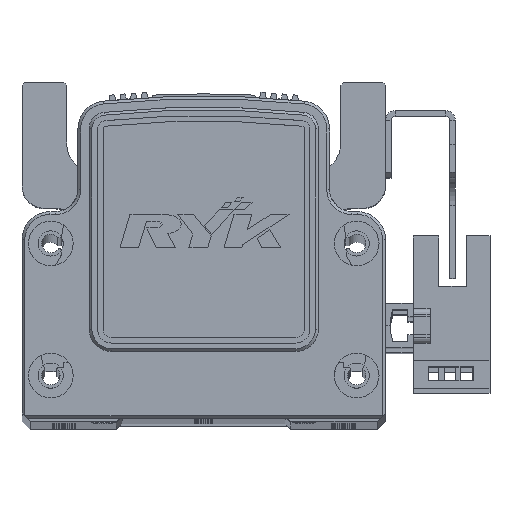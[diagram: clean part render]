
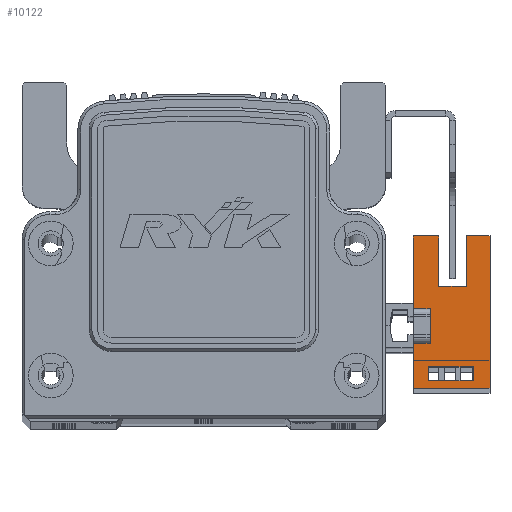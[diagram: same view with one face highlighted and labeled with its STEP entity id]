
A CAD part, top view. The second image highlights one B-rep face of the part: STEP entity #10122.
In plain terms, the highlighted planar face has unit normal (0, 0, 1) as drawn and (1, 0, 0) by its records, which use the part's own axes.
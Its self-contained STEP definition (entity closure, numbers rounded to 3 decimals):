
#503 = CARTESIAN_POINT ( 'NONE',  ( 3.2, 16.1, -10.7 ) ) ;
#562 = CARTESIAN_POINT ( 'NONE',  ( 3.2, -9.83, 0.3 ) ) ;
#708 = CARTESIAN_POINT ( 'NONE',  ( 3.2, -11.1, -10.7 ) ) ;
#712 = CARTESIAN_POINT ( 'NONE',  ( 3.2, 16.1, -6.5 ) ) ;
#802 = CARTESIAN_POINT ( 'NONE',  ( 3.2, -3.1, 0. ) ) ;
#1022 = VERTEX_POINT ( 'NONE', #41771 ) ;
#1035 = VERTEX_POINT ( 'NONE', #41767 ) ;
#1585 = VERTEX_POINT ( 'NONE', #562 ) ;
#1623 = VERTEX_POINT ( 'NONE', #503 ) ;
#1636 = VERTEX_POINT ( 'NONE', #712 ) ;
#1639 = VERTEX_POINT ( 'NONE', #708 ) ;
#2030 = DIRECTION ( 'NONE',  ( 1., 0., 0. ) ) ;
#2718 = VERTEX_POINT ( 'NONE', #802 ) ;
#10122 = ADVANCED_FACE ( 'NONE', ( #22330, #22302 ), #38349, .T. ) ;
#13396 = DIRECTION ( 'NONE',  ( 0., 1., 0. ) ) ;
#13554 = EDGE_LOOP ( 'NONE', ( #39534, #39437, #39600, #39439 ) ) ;
#13556 = EDGE_LOOP ( 'NONE', ( #39633, #39481, #39497, #39487, #39578, #39475, #39544, #39479, #39511, #39596, #39558, #39631 ) ) ;
#14849 = DIRECTION ( 'NONE',  ( 0., 0., 1. ) ) ;
#14876 = CARTESIAN_POINT ( 'NONE',  ( 3.2, 16.1, -10.7 ) ) ;
#14881 = VERTEX_POINT ( 'NONE', #25007 ) ;
#15182 = VERTEX_POINT ( 'NONE', #25336 ) ;
#15201 = VERTEX_POINT ( 'NONE', #25470 ) ;
#15209 = VERTEX_POINT ( 'NONE', #25389 ) ;
#15212 = VERTEX_POINT ( 'NONE', #25451 ) ;
#15224 = VERTEX_POINT ( 'NONE', #25429 ) ;
#15226 = VERTEX_POINT ( 'NONE', #25447 ) ;
#16422 = AXIS2_PLACEMENT_3D ( 'NONE', #19716, #2030, #13396 ) ;
#19163 = CARTESIAN_POINT ( 'NONE',  ( 3.2, 3.1, 0. ) ) ;
#19716 = CARTESIAN_POINT ( 'NONE',  ( 3.2, 16.1, -10.7 ) ) ;
#22302 = FACE_BOUND ( 'NONE', #13554, .T. ) ;
#22330 = FACE_OUTER_BOUND ( 'NONE', #13556, .T. ) ;
#24011 = LINE ( 'NONE', #31271, #24066 ) ;
#24066 = VECTOR ( 'NONE', #31261, 1000. ) ;
#24686 = VECTOR ( 'NONE', #31109, 1000. ) ;
#24689 = LINE ( 'NONE', #31107, #24698 ) ;
#24695 = LINE ( 'NONE', #14876, #24706 ) ;
#24698 = VECTOR ( 'NONE', #31100, 1000. ) ;
#24706 = VECTOR ( 'NONE', #14849, 1000. ) ;
#24707 = LINE ( 'NONE', #31077, #24686 ) ;
#24723 = VECTOR ( 'NONE', #31143, 1000. ) ;
#24747 = LINE ( 'NONE', #31147, #24723 ) ;
#24748 = LINE ( 'NONE', #31120, #24750 ) ;
#24750 = VECTOR ( 'NONE', #31115, 1000. ) ;
#24759 = VECTOR ( 'NONE', #31074, 1000. ) ;
#24784 = LINE ( 'NONE', #31073, #24759 ) ;
#24789 = LINE ( 'NONE', #31228, #24817 ) ;
#24796 = VECTOR ( 'NONE', #31170, 1000. ) ;
#24811 = LINE ( 'NONE', #31190, #24796 ) ;
#24817 = VECTOR ( 'NONE', #31222, 1000. ) ;
#24824 = LINE ( 'NONE', #31191, #24832 ) ;
#24825 = VECTOR ( 'NONE', #31231, 1000. ) ;
#24832 = VECTOR ( 'NONE', #31181, 1000. ) ;
#24833 = LINE ( 'NONE', #31233, #24825 ) ;
#25007 = CARTESIAN_POINT ( 'NONE',  ( 3.2, -7.33, -7.7 ) ) ;
#25336 = CARTESIAN_POINT ( 'NONE',  ( 3.2, -7.33, 0.3 ) ) ;
#25389 = CARTESIAN_POINT ( 'NONE',  ( 3.2, 7.1, -1.5 ) ) ;
#25429 = CARTESIAN_POINT ( 'NONE',  ( 3.2, 3.1, 3. ) ) ;
#25447 = CARTESIAN_POINT ( 'NONE',  ( 3.2, -11.1, 3. ) ) ;
#25451 = CARTESIAN_POINT ( 'NONE',  ( 3.2, -3.1, 3. ) ) ;
#25470 = CARTESIAN_POINT ( 'NONE',  ( 3.2, 16.1, 3. ) ) ;
#29165 = EDGE_CURVE ( 'NONE', #1623, #1636, #24695, .T. ) ;
#29194 = EDGE_CURVE ( 'NONE', #15224, #15201, #24707, .T. ) ;
#29196 = EDGE_CURVE ( 'NONE', #15212, #2718, #24689, .T. ) ;
#29198 = EDGE_CURVE ( 'NONE', #15226, #15212, #24784, .T. ) ;
#29220 = EDGE_CURVE ( 'NONE', #2718, #41829, #24747, .T. ) ;
#29222 = EDGE_CURVE ( 'NONE', #41829, #15224, #24748, .T. ) ;
#29237 = EDGE_CURVE ( 'NONE', #1639, #1623, #24824, .T. ) ;
#29242 = EDGE_CURVE ( 'NONE', #1035, #15201, #24811, .T. ) ;
#29245 = EDGE_CURVE ( 'NONE', #1585, #35764, #24833, .T. ) ;
#29250 = EDGE_CURVE ( 'NONE', #35764, #14881, #24789, .T. ) ;
#29271 = EDGE_CURVE ( 'NONE', #15182, #1585, #24011, .T. ) ;
#29278 = EDGE_CURVE ( 'NONE', #1639, #15226, #35077, .T. ) ;
#29282 = EDGE_CURVE ( 'NONE', #1022, #15209, #35120, .T. ) ;
#29292 = EDGE_CURVE ( 'NONE', #1636, #1022, #35079, .T. ) ;
#29296 = EDGE_CURVE ( 'NONE', #15209, #1035, #35069, .T. ) ;
#29335 = EDGE_CURVE ( 'NONE', #14881, #15182, #35134, .T. ) ;
#31073 = CARTESIAN_POINT ( 'NONE',  ( 3.2, 16.1, 3. ) ) ;
#31074 = DIRECTION ( 'NONE',  ( 0., 1., 0. ) ) ;
#31077 = CARTESIAN_POINT ( 'NONE',  ( 3.2, 16.1, 3. ) ) ;
#31100 = DIRECTION ( 'NONE',  ( 0., 0., -1. ) ) ;
#31107 = CARTESIAN_POINT ( 'NONE',  ( 3.2, -3.1, 3. ) ) ;
#31109 = DIRECTION ( 'NONE',  ( 0., 1., 0. ) ) ;
#31115 = DIRECTION ( 'NONE',  ( 0., 0., 1. ) ) ;
#31120 = CARTESIAN_POINT ( 'NONE',  ( 3.2, 3.1, 3. ) ) ;
#31143 = DIRECTION ( 'NONE',  ( 0., 1., 0. ) ) ;
#31147 = CARTESIAN_POINT ( 'NONE',  ( 3.2, 0., 0. ) ) ;
#31170 = DIRECTION ( 'NONE',  ( 0., 0., 1. ) ) ;
#31181 = DIRECTION ( 'NONE',  ( 0., 1., 0. ) ) ;
#31190 = CARTESIAN_POINT ( 'NONE',  ( 3.2, 16.1, -10.7 ) ) ;
#31191 = CARTESIAN_POINT ( 'NONE',  ( 3.2, 16.1, -10.7 ) ) ;
#31222 = DIRECTION ( 'NONE',  ( 0., 1., 0. ) ) ;
#31228 = CARTESIAN_POINT ( 'NONE',  ( 3.2, 16.1, -7.7 ) ) ;
#31231 = DIRECTION ( 'NONE',  ( 0., 0., -1. ) ) ;
#31233 = CARTESIAN_POINT ( 'NONE',  ( 3.2, -9.83, -10.7 ) ) ;
#31246 = CARTESIAN_POINT ( 'NONE',  ( 3.2, -11.1, 3. ) ) ;
#31261 = DIRECTION ( 'NONE',  ( 0., -1., 0. ) ) ;
#31265 = CARTESIAN_POINT ( 'NONE',  ( 3.2, 7.1, -6.5 ) ) ;
#31267 = DIRECTION ( 'NONE',  ( 0., 0., 1. ) ) ;
#31271 = CARTESIAN_POINT ( 'NONE',  ( 3.2, 16.1, 0.3 ) ) ;
#31284 = CARTESIAN_POINT ( 'NONE',  ( 3.2, 25.1, -1.5 ) ) ;
#31293 = CARTESIAN_POINT ( 'NONE',  ( 3.2, 25.1, -6.5 ) ) ;
#31300 = DIRECTION ( 'NONE',  ( 0., 1., 0. ) ) ;
#31308 = DIRECTION ( 'NONE',  ( 0., -1., 0. ) ) ;
#31319 = DIRECTION ( 'NONE',  ( 0., 0., 1. ) ) ;
#31375 = DIRECTION ( 'NONE',  ( 0., 0., 1. ) ) ;
#31393 = CARTESIAN_POINT ( 'NONE',  ( 3.2, -7.33, -10.7 ) ) ;
#35069 = LINE ( 'NONE', #31284, #35118 ) ;
#35077 = LINE ( 'NONE', #31246, #35126 ) ;
#35079 = LINE ( 'NONE', #31293, #35092 ) ;
#35092 = VECTOR ( 'NONE', #31308, 1000. ) ;
#35114 = VECTOR ( 'NONE', #31319, 1000. ) ;
#35118 = VECTOR ( 'NONE', #31300, 1000. ) ;
#35120 = LINE ( 'NONE', #31265, #35114 ) ;
#35126 = VECTOR ( 'NONE', #31267, 1000. ) ;
#35134 = LINE ( 'NONE', #31393, #35179 ) ;
#35179 = VECTOR ( 'NONE', #31375, 1000. ) ;
#35764 = VERTEX_POINT ( 'NONE', #37932 ) ;
#37932 = CARTESIAN_POINT ( 'NONE',  ( 3.2, -9.83, -7.7 ) ) ;
#38349 = PLANE ( 'NONE',  #16422 ) ;
#39437 = ORIENTED_EDGE ( 'NONE', *, *, #29335, .F. ) ;
#39439 = ORIENTED_EDGE ( 'NONE', *, *, #29245, .F. ) ;
#39475 = ORIENTED_EDGE ( 'NONE', *, *, #29222, .F. ) ;
#39479 = ORIENTED_EDGE ( 'NONE', *, *, #29196, .F. ) ;
#39481 = ORIENTED_EDGE ( 'NONE', *, *, #29282, .T. ) ;
#39487 = ORIENTED_EDGE ( 'NONE', *, *, #29242, .T. ) ;
#39497 = ORIENTED_EDGE ( 'NONE', *, *, #29296, .T. ) ;
#39511 = ORIENTED_EDGE ( 'NONE', *, *, #29198, .F. ) ;
#39534 = ORIENTED_EDGE ( 'NONE', *, *, #29271, .F. ) ;
#39544 = ORIENTED_EDGE ( 'NONE', *, *, #29220, .F. ) ;
#39558 = ORIENTED_EDGE ( 'NONE', *, *, #29237, .T. ) ;
#39578 = ORIENTED_EDGE ( 'NONE', *, *, #29194, .F. ) ;
#39596 = ORIENTED_EDGE ( 'NONE', *, *, #29278, .F. ) ;
#39600 = ORIENTED_EDGE ( 'NONE', *, *, #29250, .F. ) ;
#39631 = ORIENTED_EDGE ( 'NONE', *, *, #29165, .T. ) ;
#39633 = ORIENTED_EDGE ( 'NONE', *, *, #29292, .T. ) ;
#41767 = CARTESIAN_POINT ( 'NONE',  ( 3.2, 16.1, -1.5 ) ) ;
#41771 = CARTESIAN_POINT ( 'NONE',  ( 3.2, 7.1, -6.5 ) ) ;
#41829 = VERTEX_POINT ( 'NONE', #19163 ) ;
